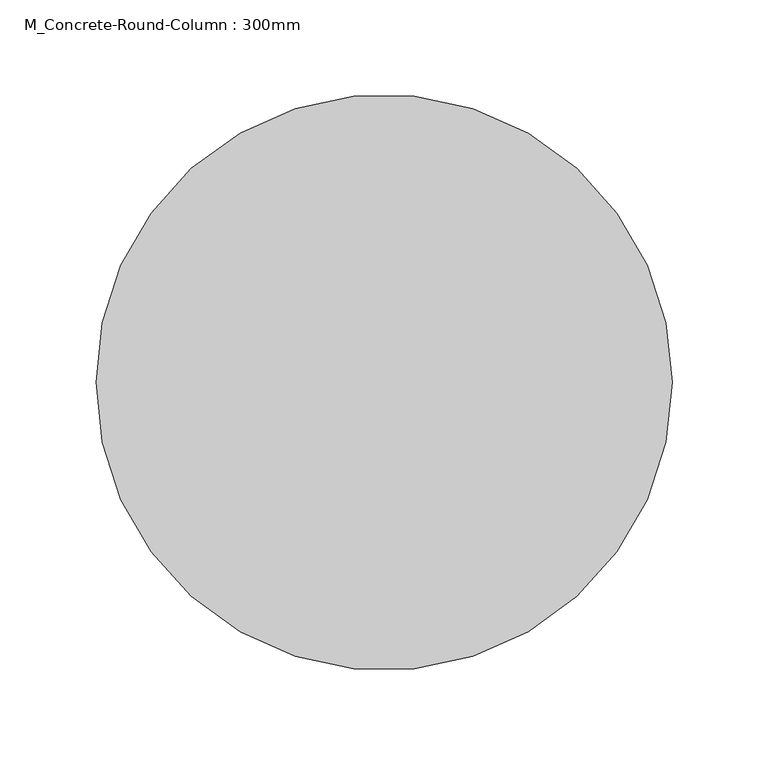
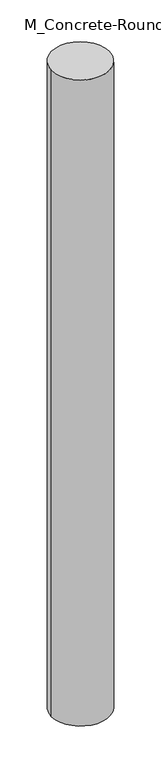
"""IFC4 building model written with IfcOpenShell, lengths in millimetres: column geometry, M_Concrete-Round-Column : 300mm."""

import ifcopenshell
import ifcopenshell.guid

model = None  # the IFC model being written
_history = None  # IfcOwnerHistory: only IFC2X3 demands one
_inside = {}  # id of a spatial element -> (the spatial element, [elements in it])
_under = {}  # id of a project, library or spatial element -> (it, [spatial elements below it])
_declared = {}  # id of a project -> (the project, [libraries it declares])
_typed = {}  # id of a type object -> (the type object, [elements of that type])
_made_of = {}  # id of a material, layer set ... -> (it, [elements and type objects made of it])


def new_model(schema):
    """Start an empty IFC model of exactly this schema.

    Asked for "IFC4X3", IfcOpenShell would pick the latest addendum, in which some entities
    have other attributes; the version numbers below select the first issue.
    IFC2X3 requires an IfcOwnerHistory on every rooted entity: one is made here for all.
    """
    global model, _history
    if schema == "IFC4X3":
        model = ifcopenshell.file(schema_version=(4, 3, 0, 0))
    else:
        model = ifcopenshell.file(schema=schema)
    _inside.clear()
    _under.clear()
    _declared.clear()
    _typed.clear()
    _made_of.clear()
    _history = None
    if model.schema == "IFC2X3":
        org = make("IfcOrganization", Name="unknown")
        user = make(
            "IfcPersonAndOrganization",
            ThePerson=make("IfcPerson", FamilyName="unknown"),
            TheOrganization=org,
        )
        app = make(
            "IfcApplication",
            ApplicationDeveloper=org,
            Version="unknown",
            ApplicationFullName="unknown",
            ApplicationIdentifier="unknown",
        )
        _history = make(
            "IfcOwnerHistory",
            OwningUser=user,
            OwningApplication=app,
            ChangeAction="ADDED",
            CreationDate=0,
        )
    return model


def make(cls, **values):
    """One entity of the class cls with the attributes given. An attribute that is None is left unset."""
    return model.create_entity(
        cls, **{name: value for name, value in values.items() if value is not None}
    )


def rooted(cls, **values):
    """An entity with a GlobalId (a new one), such as an element, a storey or a relation."""
    return make(cls, GlobalId=ifcopenshell.guid.new(), OwnerHistory=_history, **values)


def si_unit(unit_type, name, prefix=None):
    """IfcSIUnit, for example si_unit("LENGTHUNIT", "METRE", prefix="MILLI")."""
    return make("IfcSIUnit", UnitType=unit_type, Prefix=prefix, Name=name)


def assignment(units):
    """IfcUnitAssignment: the units of a project."""
    return None if units is None else make("IfcUnitAssignment", Units=units)


def point(xyz):
    """IfcCartesianPoint."""
    return None if xyz is None else make("IfcCartesianPoint", Coordinates=xyz)


def direction(xyz):
    """IfcDirection."""
    return None if xyz is None else make("IfcDirection", DirectionRatios=xyz)


def frame(location, z_axis=None, x_axis=None):
    """IfcAxis2Placement3D, a coordinate frame: its origin and axes. An axis left out is left unset."""
    return make(
        "IfcAxis2Placement3D",
        Location=point(location),
        Axis=direction(z_axis),
        RefDirection=direction(x_axis),
    )


def frame_2d(location, x_axis=None):
    """IfcAxis2Placement2D, a coordinate frame in the plane: its origin and x axis."""
    return make(
        "IfcAxis2Placement2D", Location=point(location), RefDirection=direction(x_axis)
    )


def origin():
    """The frame at (0, 0, 0) with its axes left unset."""
    return frame((0.0, 0.0, 0.0))


def origin_2d():
    """The frame at (0, 0) in the plane with its x axis left unset."""
    return frame_2d((0.0, 0.0))


def place(relative_to, where):
    """IfcLocalPlacement: puts the frame where relative to a parent placement (None: the world)."""
    return make(
        "IfcLocalPlacement", PlacementRelTo=relative_to, RelativePlacement=where
    )


def context(
    kind, dimensions, precision=None, world=None, true_north=None, identifier=None
):
    """IfcGeometricRepresentationContext, for example the 3D "Model" context."""
    return make(
        "IfcGeometricRepresentationContext",
        ContextIdentifier=identifier,
        ContextType=kind,
        CoordinateSpaceDimension=dimensions,
        Precision=precision,
        WorldCoordinateSystem=world,
        TrueNorth=true_north,
    )


def project(units=None, contexts=None):
    """IfcProject with its units and contexts."""
    return rooted(
        "IfcProject",
        Name="project",
        RepresentationContexts=contexts,
        UnitsInContext=assignment(units),
    )


def spatial(cls, under=None, at=None, **own):
    """A site, building, storey or space (cls), placed at a placement, below another one or the project."""
    s = rooted(cls, ObjectPlacement=at, **own)
    if under is not None:
        _under.setdefault(under.id(), (under, []))[1].append(s)
    return s


def circle_curve(where, radius):
    """IfcCircle in the frame where."""
    return make("IfcCircle", Position=where, Radius=radius)


def trimmed(basis, trim1, trim2, sense, master):
    """IfcTrimmedCurve: the piece of a basis curve between two trims."""
    return make(
        "IfcTrimmedCurve",
        BasisCurve=basis,
        Trim1=trim1,
        Trim2=trim2,
        SenseAgreement=sense,
        MasterRepresentation=master,
    )


def segment(curve, same_sense, transition):
    """IfcCompositeCurveSegment."""
    return make(
        "IfcCompositeCurveSegment",
        Transition=transition,
        SameSense=same_sense,
        ParentCurve=curve,
    )


def composite_curve(segments, self_intersect=None):
    """IfcCompositeCurve: segments joined end to end."""
    return make("IfcCompositeCurve", Segments=segments, SelfIntersect=self_intersect)


def outline(outer, holes=None, kind="AREA"):
    """IfcArbitraryClosedProfileDef: a profile drawn as a closed curve; with holes, ...WithVoids."""
    if holes is None:
        return make("IfcArbitraryClosedProfileDef", ProfileType=kind, OuterCurve=outer)
    return make(
        "IfcArbitraryProfileDefWithVoids",
        ProfileType=kind,
        OuterCurve=outer,
        InnerCurves=holes,
    )


def extrude(swept, where, along, depth):
    """IfcExtrudedAreaSolid: the profile swept, set in the frame where, extruded along a direction by depth."""
    return make(
        "IfcExtrudedAreaSolid",
        SweptArea=swept,
        Position=where,
        ExtrudedDirection=direction(along),
        Depth=depth,
    )


def shape(context_of_items, identifier, shape_type, items):
    """IfcShapeRepresentation: the items that make up one representation, for example the "Body"."""
    return make(
        "IfcShapeRepresentation",
        ContextOfItems=context_of_items,
        RepresentationIdentifier=identifier,
        RepresentationType=shape_type,
        Items=items,
    )


def source(mapping_origin, context_of_items, identifier, shape_type, items):
    """IfcRepresentationMap: a shape defined once, which mapped items show again and again."""
    return make(
        "IfcRepresentationMap",
        MappingOrigin=mapping_origin,
        MappedRepresentation=shape(context_of_items, identifier, shape_type, items),
    )


def transform(
    local_origin,
    x_axis=None,
    y_axis=None,
    z_axis=None,
    scale=None,
    scale2=None,
    scale3=None,
    uniform=True,
):
    """IfcCartesianTransformationOperator3D, or its non-uniform kind. x_axis, y_axis, z_axis: its Axis1, 2, 3."""
    if uniform:
        return make(
            "IfcCartesianTransformationOperator3D",
            Axis1=direction(x_axis),
            Axis2=direction(y_axis),
            LocalOrigin=point(local_origin),
            Scale=scale,
            Axis3=direction(z_axis),
        )
    return make(
        "IfcCartesianTransformationOperator3DnonUniform",
        Axis1=direction(x_axis),
        Axis2=direction(y_axis),
        LocalOrigin=point(local_origin),
        Scale=scale,
        Axis3=direction(z_axis),
        Scale2=scale2,
        Scale3=scale3,
    )


def mapped(mapping_source, mapping_target):
    """IfcMappedItem: shows the shape of a source again, moved by a transform."""
    return make(
        "IfcMappedItem", MappingSource=mapping_source, MappingTarget=mapping_target
    )


def made_of(thing, what):
    """Note that an element or type object is made of a material, layer set ...; save() writes the relation."""
    if what is not None:
        _made_of.setdefault(what.id(), (what, []))[1].append(thing)
    return thing


def element(
    cls,
    number,
    at=None,
    inside=None,
    cuts=None,
    type_object=None,
    material=None,
    context=None,
    identifier="Body",
    shape_type=None,
    held_by="IfcProductDefinitionShape",
    body=None,
    shapes=None,
    **own,
):
    """One element of the class cls, such as IfcWall. Its Tag is "e" and its number.

    at: its placement. inside: the storey or other place that contains it. cuts: it is an
    opening in that element (IfcRelVoidsElement). A single representation is given by context,
    identifier, shape_type and body (its items); several are given by shapes. held_by: the class
    of the entity that holds the representations. save() writes the other relations.
    """
    e = rooted(cls, Tag="e%d" % number, ObjectPlacement=at, **own)
    if body is not None:
        shapes = [shape(context, identifier, shape_type, body)]
    if shapes is not None:
        e.Representation = make(held_by, Representations=shapes)
    if inside is not None:
        _inside.setdefault(inside.id(), (inside, []))[1].append(e)
    if cuts is not None:
        rooted(
            "IfcRelVoidsElement", RelatingBuildingElement=cuts, RelatedOpeningElement=e
        )
    if type_object is not None:
        _typed.setdefault(type_object.id(), (type_object, []))[1].append(e)
    return made_of(e, material)


def aggregate(whole, parts):
    """IfcRelAggregates: a whole, such as a stair, and the parts it consists of."""
    return rooted("IfcRelAggregates", RelatingObject=whole, RelatedObjects=parts)


def save(model, path):
    """Write the relations noted so far, then the file.

    IfcRelAggregates (storeys below a building ...), IfcRelContainedInSpatialStructure (elements
    in a storey), IfcRelDefinesByType, IfcRelAssociatesMaterial and IfcRelDeclares: one each for
    every whole, place, type object, material and project.
    """
    for whole, parts in _under.values():
        aggregate(whole, parts)
    for where, things in _inside.values():
        rooted(
            "IfcRelContainedInSpatialStructure",
            RelatedElements=things,
            RelatingStructure=where,
        )
    for kind, things in _typed.values():
        rooted("IfcRelDefinesByType", RelatedObjects=things, RelatingType=kind)
    for what, things in _made_of.values():
        rooted("IfcRelAssociatesMaterial", RelatedObjects=things, RelatingMaterial=what)
    for by, libraries in _declared.values():
        rooted("IfcRelDeclares", RelatingContext=by, RelatedDefinitions=libraries)
    model.write(path)


def m_concrete_round_column_300mm_33275d7c(model_context):
    return source(origin(), model_context, "Body", "SweptSolid", [
        extrude(outline(composite_curve([segment(trimmed(circle_curve(origin_2d(), 150.0), [point((-150.0, 0.0))], [point((150.0, 0.0))], False, "CARTESIAN"), True, "CONTINUOUS"), segment(trimmed(circle_curve(origin_2d(), 150.0), [point((150.0, 0.0))], [point((-150.0, 0.0))], False, "CARTESIAN"), True, "CONTINUOUS")], self_intersect=False)), frame((0.0, 0.0, 3800.0), z_axis=(0.0, 0.0, 1.0), x_axis=(1.0, 0.0, 0.0)), (0.0, 0.0, 1.0), 3550.0),
    ])


if __name__ == "__main__":
    model = new_model("IFC4")
    model_context = context("Model", 3, world=origin())
    ifc_project = project(units=[si_unit("LENGTHUNIT", "METRE", prefix="MILLI")], contexts=[model_context])
    site = spatial("IfcSite", under=ifc_project)
    building = spatial("IfcBuilding", under=site)
    placement = place(None, origin())
    m_concrete_round_column_300mm_shape = m_concrete_round_column_300mm_33275d7c(model_context)
    element("IfcColumn", 1, ObjectType="M_Concrete-Round-Column : 300mm", at=placement, inside=building, context=model_context, shape_type="MappedRepresentation", body=[
        mapped(m_concrete_round_column_300mm_shape, transform((0.0, 0.0, 0.0), x_axis=(1.0, 0.0, 0.0), y_axis=(0.0, 1.0, 0.0), z_axis=(0.0, 0.0, 1.0))),
    ])
    save(model, "model.ifc")
